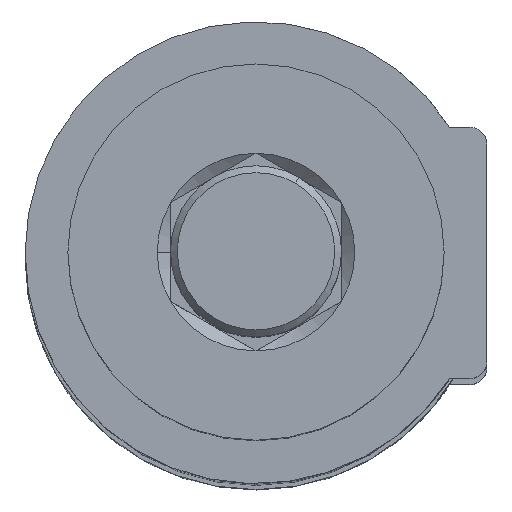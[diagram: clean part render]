
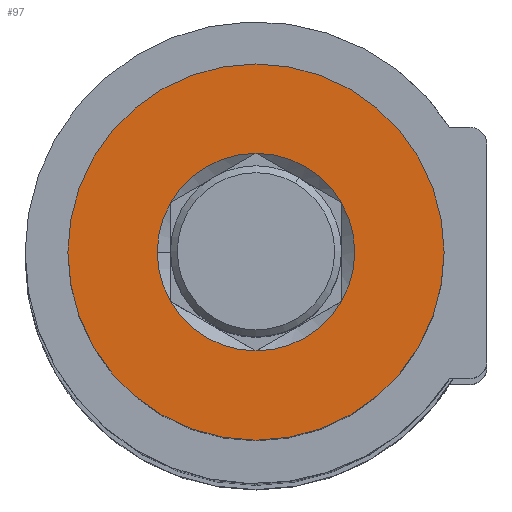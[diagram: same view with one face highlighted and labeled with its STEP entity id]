
A CAD part, top view. The second image highlights one B-rep face of the part: STEP entity #97.
In plain terms, the highlighted planar face has unit normal (0, 0, 1) as drawn and (0, 0, -1) by its records, which use the part's own axes.
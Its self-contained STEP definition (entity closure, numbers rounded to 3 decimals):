
#41 = FACE_BOUND ( 'NONE', #462, .T. ) ;
#44 = EDGE_CURVE ( 'NONE', #791, #460, #296, .T. ) ;
#49 = VERTEX_POINT ( 'NONE', #657 ) ;
#71 = AXIS2_PLACEMENT_3D ( 'NONE', #2089, #802, #566 ) ;
#97 = ADVANCED_FACE ( 'NONE', ( #96, #41 ), #1612, .F. ) ;
#96 = FACE_OUTER_BOUND ( 'NONE', #155, .T. ) ;
#136 = CARTESIAN_POINT ( 'NONE',  ( -5., -2.887, -46.7 ) ) ;
#154 = DIRECTION ( 'NONE',  ( -1., 0., 0. ) ) ;
#155 = EDGE_LOOP ( 'NONE', ( #2146, #1211 ) ) ;
#188 = CIRCLE ( 'NONE', #1424, 5.774 ) ;
#231 = CIRCLE ( 'NONE', #3116, 5.774 ) ;
#237 = CIRCLE ( 'NONE', #948, 5.774 ) ;
#296 = CIRCLE ( 'NONE', #547, 11. ) ;
#308 = DIRECTION ( 'NONE',  ( 0., 0., -1. ) ) ;
#457 = EDGE_CURVE ( 'NONE', #49, #2897, #231, .T. ) ;
#460 = VERTEX_POINT ( 'NONE', #2303 ) ;
#462 = EDGE_LOOP ( 'NONE', ( #2936, #745, #3017, #2899, #2157, #2984, #653 ) ) ;
#464 = CARTESIAN_POINT ( 'NONE',  ( -5.774, 0., -46.7 ) ) ;
#530 = VERTEX_POINT ( 'NONE', #3095 ) ;
#547 = AXIS2_PLACEMENT_3D ( 'NONE', #1556, #3213, #1194 ) ;
#566 = DIRECTION ( 'NONE',  ( 1., 0., 0. ) ) ;
#588 = DIRECTION ( 'NONE',  ( 0., 0., -1. ) ) ;
#616 = CARTESIAN_POINT ( 'NONE',  ( 0., 0., -46.7 ) ) ;
#641 = CARTESIAN_POINT ( 'NONE',  ( 0., 0., -46.7 ) ) ;
#653 = ORIENTED_EDGE ( 'NONE', *, *, #457, .F. ) ;
#657 = CARTESIAN_POINT ( 'NONE',  ( 5., -2.887, -46.7 ) ) ;
#659 = AXIS2_PLACEMENT_3D ( 'NONE', #3281, #1859, #154 ) ;
#670 = CIRCLE ( 'NONE', #1378, 5.774 ) ;
#702 = EDGE_CURVE ( 'NONE', #2122, #530, #670, .T. ) ;
#745 = ORIENTED_EDGE ( 'NONE', *, *, #2938, .F. ) ;
#791 = VERTEX_POINT ( 'NONE', #2980 ) ;
#802 = DIRECTION ( 'NONE',  ( 0., 0., 1. ) ) ;
#851 = AXIS2_PLACEMENT_3D ( 'NONE', #641, #2446, #945 ) ;
#911 = DIRECTION ( 'NONE',  ( 1., 0., 0. ) ) ;
#927 = DIRECTION ( 'NONE',  ( 0., 0., -1. ) ) ;
#945 = DIRECTION ( 'NONE',  ( -1., 0., 0. ) ) ;
#948 = AXIS2_PLACEMENT_3D ( 'NONE', #1966, #308, #2189 ) ;
#1018 = CIRCLE ( 'NONE', #659, 5.774 ) ;
#1019 = CARTESIAN_POINT ( 'NONE',  ( 0., 0., -46.7 ) ) ;
#1194 = DIRECTION ( 'NONE',  ( 1., 0., 0. ) ) ;
#1211 = ORIENTED_EDGE ( 'NONE', *, *, #44, .F. ) ;
#1214 = VERTEX_POINT ( 'NONE', #2694 ) ;
#1225 = CIRCLE ( 'NONE', #851, 5.774 ) ;
#1319 = DIRECTION ( 'NONE',  ( -1., 0., 0. ) ) ;
#1378 = AXIS2_PLACEMENT_3D ( 'NONE', #2437, #927, #2668 ) ;
#1399 = EDGE_CURVE ( 'NONE', #460, #791, #2044, .T. ) ;
#1424 = AXIS2_PLACEMENT_3D ( 'NONE', #2182, #588, #2407 ) ;
#1516 = AXIS2_PLACEMENT_3D ( 'NONE', #1019, #2744, #1319 ) ;
#1521 = CIRCLE ( 'NONE', #1516, 5.774 ) ;
#1554 = EDGE_CURVE ( 'NONE', #530, #3033, #1521, .T. ) ;
#1556 = CARTESIAN_POINT ( 'NONE',  ( 0., 0., -46.7 ) ) ;
#1612 = PLANE ( 'NONE',  #71 ) ;
#1650 = CARTESIAN_POINT ( 'NONE',  ( 0., 0., -46.7 ) ) ;
#1674 = CARTESIAN_POINT ( 'NONE',  ( 0., -5.774, -46.7 ) ) ;
#1708 = EDGE_CURVE ( 'NONE', #2897, #1973, #1225, .T. ) ;
#1859 = DIRECTION ( 'NONE',  ( 0., 0., -1. ) ) ;
#1878 = DIRECTION ( 'NONE',  ( -1., 0., 0. ) ) ;
#1966 = CARTESIAN_POINT ( 'NONE',  ( 0., 0., -46.7 ) ) ;
#1971 = EDGE_CURVE ( 'NONE', #1973, #2122, #1018, .T. ) ;
#1973 = VERTEX_POINT ( 'NONE', #136 ) ;
#2044 = CIRCLE ( 'NONE', #2138, 11. ) ;
#2089 = CARTESIAN_POINT ( 'NONE',  ( 0., 5., -46.7 ) ) ;
#2122 = VERTEX_POINT ( 'NONE', #464 ) ;
#2138 = AXIS2_PLACEMENT_3D ( 'NONE', #616, #2429, #911 ) ;
#2146 = ORIENTED_EDGE ( 'NONE', *, *, #1399, .F. ) ;
#2157 = ORIENTED_EDGE ( 'NONE', *, *, #1971, .F. ) ;
#2182 = CARTESIAN_POINT ( 'NONE',  ( 0., 0., -46.7 ) ) ;
#2189 = DIRECTION ( 'NONE',  ( -1., 0., 0. ) ) ;
#2303 = CARTESIAN_POINT ( 'NONE',  ( 11., 0., -46.7 ) ) ;
#2407 = DIRECTION ( 'NONE',  ( -1., 0., 0. ) ) ;
#2429 = DIRECTION ( 'NONE',  ( 0., 0., 1. ) ) ;
#2437 = CARTESIAN_POINT ( 'NONE',  ( 0., 0., -46.7 ) ) ;
#2446 = DIRECTION ( 'NONE',  ( 0., 0., -1. ) ) ;
#2459 = CARTESIAN_POINT ( 'NONE',  ( 0., 5.774, -46.7 ) ) ;
#2668 = DIRECTION ( 'NONE',  ( -1., 0., 0. ) ) ;
#2694 = CARTESIAN_POINT ( 'NONE',  ( 5., 2.887, -46.7 ) ) ;
#2744 = DIRECTION ( 'NONE',  ( 0., 0., -1. ) ) ;
#2897 = VERTEX_POINT ( 'NONE', #1674 ) ;
#2899 = ORIENTED_EDGE ( 'NONE', *, *, #702, .F. ) ;
#2917 = EDGE_CURVE ( 'NONE', #1214, #49, #188, .T. ) ;
#2936 = ORIENTED_EDGE ( 'NONE', *, *, #2917, .F. ) ;
#2938 = EDGE_CURVE ( 'NONE', #3033, #1214, #237, .T. ) ;
#2980 = CARTESIAN_POINT ( 'NONE',  ( -11., 0., -46.7 ) ) ;
#2984 = ORIENTED_EDGE ( 'NONE', *, *, #1708, .F. ) ;
#3017 = ORIENTED_EDGE ( 'NONE', *, *, #1554, .F. ) ;
#3033 = VERTEX_POINT ( 'NONE', #2459 ) ;
#3095 = CARTESIAN_POINT ( 'NONE',  ( -5., 2.887, -46.7 ) ) ;
#3116 = AXIS2_PLACEMENT_3D ( 'NONE', #1650, #3307, #1878 ) ;
#3213 = DIRECTION ( 'NONE',  ( 0., 0., 1. ) ) ;
#3281 = CARTESIAN_POINT ( 'NONE',  ( 0., 0., -46.7 ) ) ;
#3307 = DIRECTION ( 'NONE',  ( 0., 0., -1. ) ) ;
